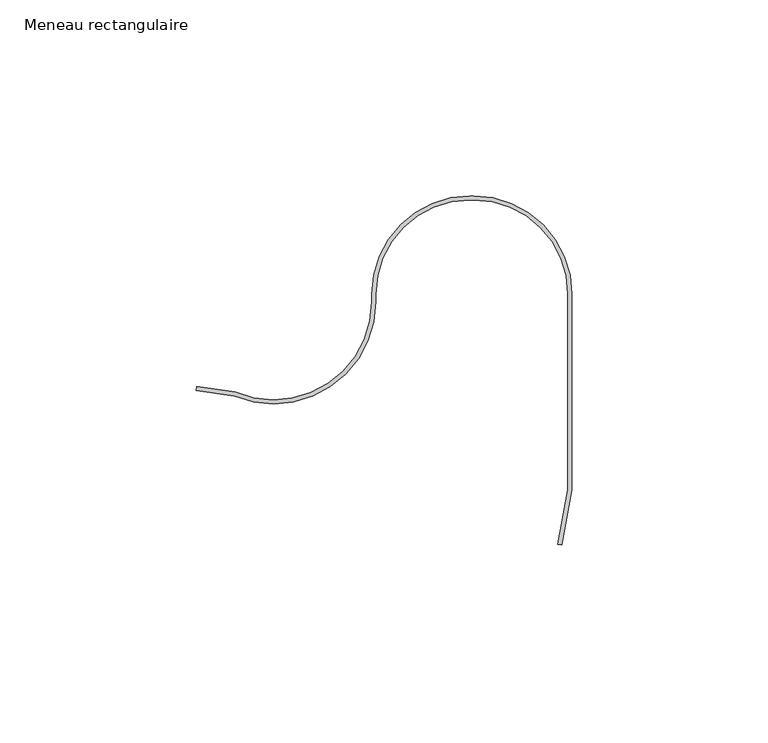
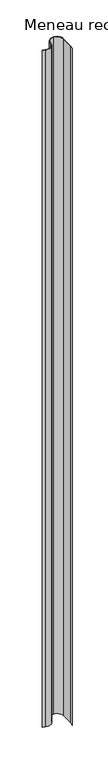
"""IFC4 building model written with IfcOpenShell, lengths in millimetres: member geometry, Meneau rectangulaire : Jonction contre mur Droite V."""

from ifc_helpers import new_model, si_unit, point, frame, frame_2d, origin, place, context, project, spatial, polyline, circle_curve, trimmed, segment, composite_curve, outline, extrude, source, transform, mapped, element, save


def meneau_rectangulaire_2bebc640(model_context):
    return source(origin(), model_context, "Body", "SweptSolid", [
        extrude(outline(composite_curve([segment(polyline([(-1.0, -26.3569132), (-1.0, 23.6430868)]), True, "CONTINUOUS"), segment(trimmed(circle_curve(frame_2d((-25.0, 23.6430868)), 24.0), [point((-1.0, 23.6430868))], [point((-25.0, 47.6430868))], True, "CARTESIAN"), True, "CONTINUOUS"), segment(polyline([(-25.0, 47.6430868), (-26.0, 47.6430868)]), True, "CONTINUOUS"), segment(trimmed(circle_curve(frame_2d((-26.0, 23.6430868)), 24.0), [point((-26.0, 47.6430868))], [point((-50.0, 23.6430868))], True, "CARTESIAN"), True, "CONTINUOUS"), segment(polyline([(-50.0, 23.6430868), (-50.0, 21.6218737)]), True, "CONTINUOUS"), segment(trimmed(circle_curve(frame_2d((-76.0, 21.6218737)), 26.0), [point((-50.0, 21.6218737))], [point((-86.0341553, -2.3638663))], False, "CARTESIAN"), True, "CONTINUOUS"), segment(polyline([(-86.0341553, -2.3638663), (-95.8078149, -0.9902681), (-95.6686418, 0.0), (-85.7659612, -1.391731)]), True, "CONTINUOUS"), segment(trimmed(circle_curve(frame_2d((-76.0, 21.6218737)), 25.0), [point((-85.7659612, -1.391731))], [point((-51.0, 21.6218737))], True, "CARTESIAN"), True, "CONTINUOUS"), segment(polyline([(-51.0, 21.6218737), (-51.0, 23.6430868)]), True, "CONTINUOUS"), segment(trimmed(circle_curve(frame_2d((-26.0, 23.6430868)), 25.0), [point((-51.0, 23.6430868))], [point((-26.0, 48.6430868))], False, "CARTESIAN"), True, "CONTINUOUS"), segment(polyline([(-26.0, 48.6430868), (-25.0, 48.6430868)]), True, "CONTINUOUS"), segment(trimmed(circle_curve(frame_2d((-25.0, 23.6430868)), 25.0), [point((-25.0, 48.6430868))], [point((0.0, 23.6430868))], False, "CARTESIAN"), True, "CONTINUOUS"), segment(polyline([(0.0, 23.6430868), (0.0, -26.3569132), (-2.6384309, -40.4046045), (-3.6043568, -40.2231847), (-1.0, -26.3569132)]), True, "CONTINUOUS")], self_intersect=False)), frame((0.0, 0.0, -2761.1451617), z_axis=(0.0, 0.0, 1.0), x_axis=(1.0, 0.0, 0.0)), (0.0, 0.0, 1.0), 2761.1451617),
    ])


if __name__ == "__main__":
    model = new_model("IFC4")
    model_context = context("Model", 3, world=origin())
    ifc_project = project(units=[si_unit("LENGTHUNIT", "METRE", prefix="MILLI")], contexts=[model_context])
    site = spatial("IfcSite", under=ifc_project)
    building = spatial("IfcBuilding", under=site)
    placement = place(None, origin())
    meneau_rectangulaire_shape = meneau_rectangulaire_2bebc640(model_context)
    element("IfcMember", 1, ObjectType="Meneau rectangulaire : Jonction contre mur Droite V", at=placement, inside=building, context=model_context, shape_type="MappedRepresentation", body=[
        mapped(meneau_rectangulaire_shape, transform((0.0, 0.0, 0.0), x_axis=(1.0, 0.0, 0.0), y_axis=(0.0, 1.0, 0.0), z_axis=(0.0, 0.0, 1.0))),
    ])
    save(model, "model.ifc")
